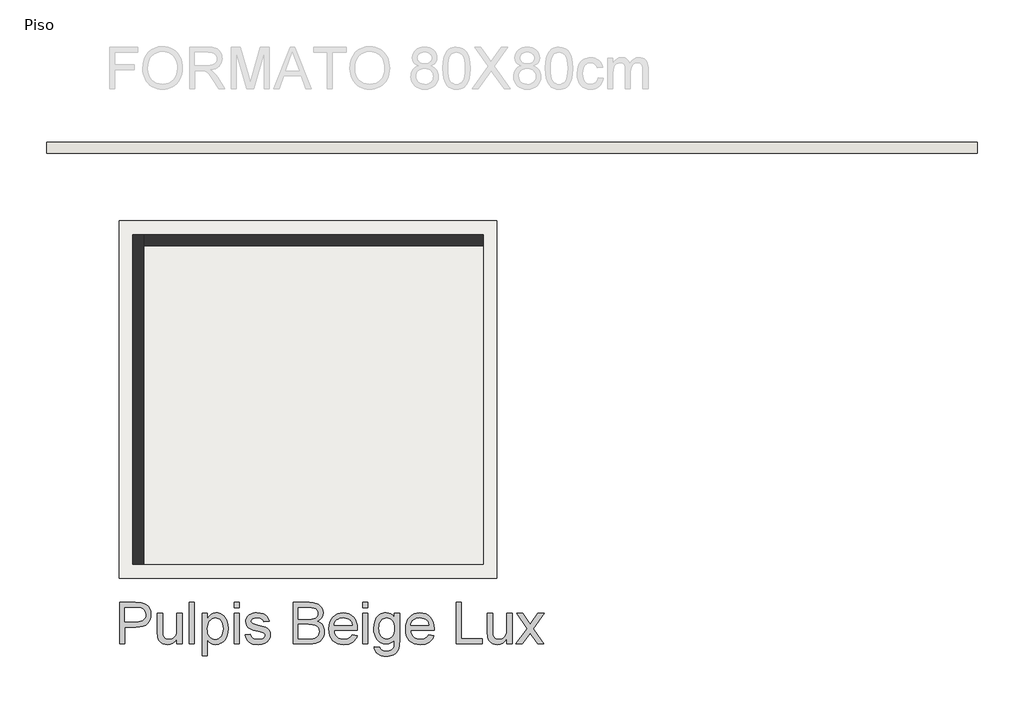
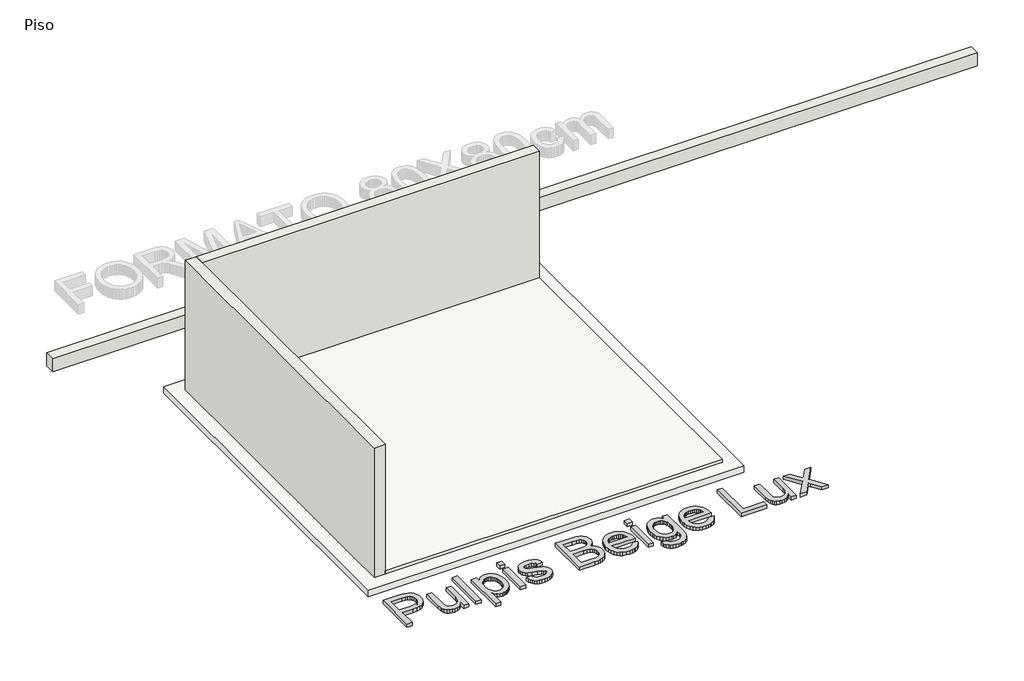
# One storey, part 1 of 2: 3 walls, 2 slabs, 1 proxy.
"""IFC4 building model written with IfcOpenShell, lengths in millimetres."""

from ifc_helpers import new_model, si_unit, frame, origin, origin_with_axes, place, context, project, spatial, polyline, outline, extrude, faceted_brep, element, save

model = new_model("IFC4")

# Units and contexts
model_context = context("Model", 3, world=origin())
ifc_project = project(units=[si_unit("LENGTHUNIT", "METRE", prefix="MILLI")], contexts=[model_context])

# Site, building, storey
site = spatial("IfcSite", under=ifc_project)
building = spatial("IfcBuilding", under=site)
storey = spatial("IfcBuildingStorey", under=building, Name="Piso", Elevation=0.0)

# Proxy
placement = place(None, origin())
element("IfcBuildingElementProxy", 1, Name="600mm Arial", ObjectType="600mm Arial", at=placement, inside=storey, context=model_context, shape_type="SweptSolid", body=[
    extrude(outline(polyline([(92748.4575984, -5348.9446893), (92748.4575984, -4746.2068284), (92971.8355459, -4746.2068284), (93023.85406, -4747.6415682), (93061.8930583, -4751.9457876), (93102.0473781, -4762.6695477), (93135.1015754, -4780.1255484), (93161.7178377, -4805.1047359), (93182.5583527, -4838.3980564), (93196.0228338, -4877.6694594), (93200.5109941, -4920.5828942), (93197.4805662, -4957.5826258), (93188.3892824, -4991.6209074), (93173.2371427, -5022.697739), (93152.0241471, -5050.8131204), (93122.9016887, -5074.1184448), (93084.0211603, -5090.7651051), (93035.3825621, -5100.7531013), (92976.9858938, -5104.0824334), (92823.7998311, -5104.0824334), (92823.7998311, -5348.9446893), (92748.4575984, -5348.9446893)]), holes=[polyline([(92823.7998311, -5028.7402007), (92981.4004778, -5028.7402007), (93017.6368543, -5027.0111554), (93048.2078481, -5021.8240192), (93073.1134592, -5013.1787923), (93092.3536875, -5001.0754747), (93106.7102824, -4985.8359631), (93116.964993, -4967.7821541), (93123.1178194, -4946.914048), (93125.1687615, -4923.2316445), (93120.3311133, -4889.386501), (93105.8181686, -4860.8388581), (93083.4325491, -4839.3545496), (93054.9768768, -4826.699409), (93025.9141992, -4822.836648), (92979.6346442, -4821.5490611), (92823.7998311, -4821.5490611), (92823.7998311, -5028.7402007)])]), origin_with_axes(), (0.0, 0.0, 1.0), 50.0),
    extrude(outline(polyline([(93577.2221572, -5348.9446893), (93577.2221572, -5272.8666927), (93549.9621013, -5310.2710946), (93518.2138851, -5336.9885245), (93481.9775086, -5353.0189824), (93441.2529718, -5358.3624684), (93404.5567427, -5354.6100721), (93370.3988995, -5343.352883), (93341.7408921, -5326.4303112), (93321.5441705, -5305.6817667), (93307.9509308, -5280.48185), (93299.1033688, -5250.2051618), (93294.6887849, -5180.16043), (93294.6887849, -4906.3090727), (93370.0310175, -4906.3090727), (93370.0310175, -5144.6966056), (93371.1714517, -5192.3741122), (93374.5927542, -5221.5103662), (93385.5740318, -5247.1333472), (93404.3911958, -5266.6126988), (93429.7934476, -5278.9183516), (93460.5299883, -5283.0202358), (93493.0323626, -5278.8263811), (93523.4378095, -5266.2448168), (93548.5089675, -5246.4343714), (93565.0084749, -5220.553873), (93574.1687366, -5185.1084428), (93577.2221572, -5136.6032017), (93577.2221572, -4906.3090727), (93652.5643898, -4906.3090727), (93652.5643898, -5348.9446893), (93577.2221572, -5348.9446893)])), origin_with_axes(), (0.0, 0.0, 1.0), 50.0),
    extrude(outline(polyline([(93756.1599596, -5348.9446893), (93756.1599596, -4746.2068284), (93831.5021922, -4746.2068284), (93831.5021922, -5348.9446893), (93756.1599596, -5348.9446893)])), origin_with_axes(), (0.0, 0.0, 1.0), 50.0),
    extrude(outline(polyline([(93944.5155412, -5518.4647127), (93944.5155412, -4906.3090727), (94019.8577738, -4906.3090727), (94019.8577738, -4980.1797774), (94044.432291, -4943.7410658), (94071.9498643, -4917.7134146), (94104.0291743, -4902.0968239), (94142.2889018, -4896.8912937), (94168.5648733, -4898.7123095), (94193.2405581, -4904.1753572), (94216.3159562, -4913.2804366), (94237.7910677, -4926.0275477), (94257.196843, -4942.0855968), (94274.0642324, -4961.12349), (94288.3932362, -4983.1412274), (94300.1838541, -5008.138809), (94315.9659917, -5063.6522021), (94321.2267042, -5124.2423667), (94315.28541, -5188.6768981), (94307.8587922, -5218.3419825), (94297.4615273, -5246.3056127), (94284.2361696, -5271.8366232), (94268.3252733, -5294.2038485), (94249.7288385, -5313.4072886), (94228.446865, -5329.4469436), (94205.5232182, -5342.0974857), (94182.0017631, -5351.1335872), (94157.8824998, -5356.5552481), (94133.1654283, -5358.3624684), (94098.5293384, -5353.5248202), (94067.6088567, -5339.0118755), (94041.1397472, -5317.1045027), (94019.8577738, -5290.0835701), (94019.8577738, -5518.4647127), (93944.5155412, -5518.4647127)]), holes=[polyline([(94019.8577738, -5131.1585482), (94021.8949203, -5167.4685011), (94028.00636, -5198.7016825), (94038.1920927, -5224.8580924), (94052.4521185, -5245.9377307), (94069.6184121, -5262.1613267), (94088.5229482, -5273.7496095), (94109.1657266, -5280.7025792), (94131.5467475, -5283.0202358), (94154.2496651, -5280.6198058), (94175.2695226, -5273.4185157), (94194.60632, -5261.4163656), (94212.2600572, -5244.6133555), (94226.9707385, -5222.770362), (94237.478368, -5195.6482619), (94243.7829457, -5163.2470552), (94245.8844716, -5125.5667419), (94243.8335295, -5089.5694886), (94237.6807031, -5058.3914895), (94227.4259925, -5032.0327446), (94213.0693976, -5010.4932538), (94195.8617173, -4993.754623), (94177.0537503, -4981.7984582), (94156.6454966, -4974.6247592), (94134.6369563, -4972.2335263), (94112.6973938, -4974.7765106), (94092.0546153, -4982.4054634), (94072.7086209, -4995.1203849), (94054.6594105, -5012.9212749), (94039.4336944, -5035.5690103), (94028.558183, -5062.8244676), (94022.0328761, -5094.6876469), (94019.8577738, -5131.1585482)])]), origin_with_axes(), (0.0, 0.0, 1.0), 50.0),
    extrude(outline(polyline([(94405.9867159, -4821.5490611), (94405.9867159, -4746.2068284), (94481.3289485, -4746.2068284), (94481.3289485, -4821.5490611), (94405.9867159, -4821.5490611)])), origin_with_axes(), (0.0, 0.0, 1.0), 50.0),
    extrude(outline(polyline([(94405.9867159, -5348.9446893), (94405.9867159, -4906.3090727), (94481.3289485, -4906.3090727), (94481.3289485, -5348.9446893), (94405.9867159, -5348.9446893)])), origin_with_axes(), (0.0, 0.0, 1.0), 50.0),
    extrude(outline(polyline([(94566.0889602, -5217.0957823), (94641.4311928, -5207.6780032), (94645.9837325, -5224.8580924), (94653.3137813, -5239.904466), (94663.4213391, -5252.817124), (94676.306406, -5263.5960665), (94692.0057701, -5272.0941405), (94710.5562197, -5278.1641935), (94756.2103753, -5283.0202358), (94801.3127079, -5278.5688637), (94818.842285, -5273.0046485), (94833.0241359, -5265.2147472), (94851.7861177, -5245.8641543), (94856.4766131, -5235.0300295), (94858.0401116, -5223.4233526), (94856.4674161, -5213.2514154), (94851.7493295, -5204.2199124), (94832.8769831, -5189.578209), (94804.6604341, -5180.0132772), (94755.3274585, -5168.0939005), (94686.5703136, -5148.2098787), (94641.8726512, -5131.2321246), (94613.1594615, -5112.7092661), (94592.3557347, -5088.1899312), (94579.7189881, -5059.2376181), (94575.5067393, -5027.4158256), (94578.8912536, -4998.2243892), (94589.0447967, -4971.2770331), (94605.0476635, -4947.6406149), (94625.980149, -4928.3819925), (94646.7838759, -4916.2602807), (94673.8783848, -4906.0883435), (94705.2035367, -4899.1905561), (94738.6991923, -4896.8912937), (94787.7378623, -4900.5885077), (94830.3753855, -4911.6801499), (94864.6619875, -4929.0809682), (94888.6478936, -4951.7057109), (94904.5403958, -4981.2282411), (94914.546786, -5019.3224217), (94839.2045534, -5028.7402007), (94829.6948039, -5005.0302061), (94810.8776398, -4987.1695353), (94782.5691203, -4975.9675285), (94744.5853043, -4972.2335263), (94701.3223816, -4975.8019816), (94672.4804332, -4986.5073477), (94656.2568372, -5001.9583915), (94650.8489719, -5019.7638801), (94653.0930521, -5031.3521629), (94659.8252926, -5041.689647), (94671.339999, -5050.923485), (94687.931477, -5058.3179132), (94752.825861, -5074.3575681), (94863.4111887, -5109.8213925), (94892.6210191, -5126.7807525), (94914.7675152, -5149.9941063), (94928.728637, -5179.5350306), (94933.3823442, -5215.4771015), (94927.9192966, -5252.633183), (94911.5301537, -5287.5819725), (94884.8403149, -5317.5827493), (94848.4751797, -5339.8947923), (94804.5500695, -5353.7455494), (94755.1803057, -5358.3624684), (94714.6305128, -5356.1367823), (94679.2126737, -5349.4597241), (94648.9267885, -5338.3312938), (94623.7728571, -5322.7514913), (94603.2266476, -5302.793893), (94586.7639283, -5278.5320755), (94574.3846992, -5249.9660385), (94566.0889602, -5217.0957823)])), origin_with_axes(), (0.0, 0.0, 1.0), 50.0),
    extrude(outline(polyline([(95263.0046119, -5348.9446893), (95263.0046119, -4746.2068284), (95493.0044353, -4746.2068284), (95556.2617443, -4750.6398065), (95605.6499022, -4763.9387406), (95625.7270621, -4773.9957147), (95643.5049595, -4786.4347246), (95658.9835944, -4801.2557705), (95672.1629669, -4818.4588523), (95690.2075788, -4856.1299686), (95696.2224494, -4895.5669185), (95691.164072, -4931.8584773), (95675.9889397, -4965.9795324), (95650.5866879, -4995.8331563), (95614.8469521, -5019.3224217), (95637.5866579, -5029.0161122), (95657.5396576, -5041.6160706), (95674.7059512, -5057.1222967), (95689.0855387, -5075.5347905), (95700.4484938, -5096.2925321), (95708.5648903, -5118.8345014), (95713.4347282, -5143.1606983), (95715.0580075, -5169.2711229), (95710.6250295, -5211.3016408), (95697.3260954, -5250.2787382), (95677.4788617, -5283.424906), (95653.4009852, -5307.9626351), (95623.9152432, -5325.7313354), (95587.8444136, -5338.5704171), (95544.0112739, -5346.3511213), (95491.2386017, -5348.9446893), (95263.0046119, -5348.9446893)]), holes=[polyline([(95338.3468445, -5273.6024567), (95492.8572825, -5273.6024567), (95548.7753457, -5270.6594008), (95574.7294205, -5264.1294954), (95596.0849703, -5254.2518638), (95613.4490005, -5240.1068011), (95627.4285163, -5220.7746022), (95636.6439603, -5197.1197899), (95639.7157749, -5170.0068869), (95636.1105314, -5138.5161881), (95625.2948007, -5111.4400733), (95606.4040603, -5090.2684644), (95578.5737873, -5076.4912837), (95539.1552316, -5068.9313087), (95485.4996426, -5066.411317), (95338.3468445, -5066.411317), (95338.3468445, -5273.6024567)]), polyline([(95338.3468445, -4991.0690844), (95475.9347107, -4991.0690844), (95524.0536757, -4989.4504037), (95556.2801384, -4984.5943613), (95584.404717, -4973.4291428), (95604.6198326, -4956.7089061), (95616.8151207, -4934.6911687), (95620.8802168, -4907.6334479), (95617.0910322, -4881.3666735), (95605.7234786, -4858.4844134), (95587.2925906, -4840.6237425), (95562.3134031, -4829.4217358), (95523.9800993, -4823.5172297), (95465.486862, -4821.5490611), (95338.3468445, -4821.5490611), (95338.3468445, -4991.0690844)])]), origin_with_axes(), (0.0, 0.0, 1.0), 50.0),
    extrude(outline(polyline([(96119.139591, -5217.0957823), (96193.0102957, -5226.5135613), (96181.6841288, -5256.1004708), (96166.3940333, -5282.1741072), (96147.1400094, -5304.7344706), (96123.922057, -5323.7815609), (96096.9792994, -5338.9107079), (96066.5508598, -5349.7172415), (96032.6367384, -5356.2011617), (95995.2369351, -5358.3624684), (95948.4883305, -5354.6330647), (95906.8348916, -5343.4448535), (95870.2766184, -5324.7978349), (95838.8135107, -5298.6920088), (95813.5124265, -5265.8539422), (95795.4402235, -5227.010202), (95784.5969017, -5182.1607883), (95780.9824611, -5131.305701), (95784.6336899, -5078.7261668), (95795.5873763, -5032.3822325), (95813.8435203, -4992.273898), (95839.4021219, -4958.4011633), (95870.7824561, -4931.4905953), (95906.5037978, -4912.2687611), (95946.5661471, -4900.7356605), (95990.9695039, -4896.8912937), (96033.9427195, -4900.7264635), (96072.8048538, -4912.2319729), (96107.5559067, -4931.4078219), (96138.1958784, -4958.2540105), (96163.2072555, -4992.0531688), (96181.0725249, -5032.0879269), (96191.7916866, -5078.3582848), (96195.3647404, -5130.8642426), (96194.9232821, -5151.1713287), (95856.3246937, -5151.1713287), (95860.6886939, -5181.2364848), (95869.3661104, -5207.5676386), (95882.3569434, -5230.1647901), (95899.6611927, -5249.0279394), (95920.3223653, -5263.8995691), (95943.3839679, -5274.5221617), (95968.8460004, -5280.8957173), (95996.7084631, -5283.0202358), (96036.8076005, -5279.0838985), (96070.5791677, -5267.2748864), (96098.0231645, -5246.8574357), (96119.139591, -5217.0957823)]), holes=[polyline([(95856.3246937, -5075.8290961), (96120.0225078, -5075.8290961), (96109.8321766, -5036.0242642), (96101.067388, -5020.3708853), (96089.8561842, -5007.5501978), (96069.3099748, -4992.099154), (96045.931074, -4981.0626942), (96019.7194819, -4974.4408182), (95990.6751983, -4972.2335263), (95964.1830962, -4973.9947613), (95939.8890889, -4979.2784665), (95917.7931766, -4988.0846417), (95897.8953591, -5000.4132871), (95881.1981151, -5015.6941855), (95868.7039228, -5033.3571198), (95860.4127824, -5053.40209), (95856.3246937, -5075.8290961)])]), origin_with_axes(), (0.0, 0.0, 1.0), 50.0),
    extrude(outline(polyline([(96270.7069731, -4821.5490611), (96270.7069731, -4746.2068284), (96346.0492057, -4746.2068284), (96346.0492057, -4821.5490611), (96270.7069731, -4821.5490611)])), origin_with_axes(), (0.0, 0.0, 1.0), 50.0),
    extrude(outline(polyline([(96270.7069731, -5348.9446893), (96270.7069731, -4906.3090727), (96346.0492057, -4906.3090727), (96346.0492057, -5348.9446893), (96270.7069731, -5348.9446893)])), origin_with_axes(), (0.0, 0.0, 1.0), 50.0),
    extrude(outline(polyline([(96440.2269964, -5386.6158056), (96515.5692291, -5396.0335847), (96523.8833621, -5419.5780324), (96539.9965935, -5435.7648402), (96571.6712333, -5448.3464044), (96613.1315342, -5452.5402592), (96657.35095, -5447.7945814), (96675.2116209, -5441.8624843), (96690.2396004, -5433.5575482), (96713.0482841, -5410.7488645), (96727.0277999, -5380.2882353), (96731.11129, -5347.8778316), (96732.1781478, -5292.4380149), (96707.1069898, -5317.159685), (96679.1295641, -5334.8180207), (96648.2458706, -5345.4130222), (96614.4559094, -5348.9446893), (96573.1473598, -5344.833608), (96536.7776261, -5332.5003642), (96505.3467081, -5311.9449577), (96478.8546059, -5283.1673886), (96457.8347484, -5248.6416634), (96442.8205645, -5210.8417884), (96433.8120541, -5169.7677636), (96430.8092174, -5125.4195891), (96436.1986886, -5064.5903012), (96452.3671023, -5008.6538438), (96464.3508583, -4983.4309345), (96478.7442413, -4961.2522487), (96495.5472515, -4942.1177864), (96514.7598887, -4926.0275477), (96536.0740518, -4913.2804366), (96559.1816396, -4904.1753572), (96584.0826521, -4898.7123095), (96610.7770894, -4896.8912937), (96646.0109875, -4901.011572), (96677.9891299, -4913.3724071), (96706.7115167, -4933.9737988), (96732.1781478, -4962.8157472), (96732.1781478, -4906.3090727), (96807.5203804, -4906.3090727), (96807.5203804, -5288.4648893), (96802.3700325, -5376.7013859), (96795.9320976, -5409.5210584), (96786.9189887, -5434.808347), (96775.1145752, -5455.2028051), (96760.3027263, -5473.343986), (96742.4834422, -5489.2318897), (96721.6567227, -5502.8665161), (96698.0341001, -5513.8110055), (96671.8271065, -5521.6284979), (96643.0357419, -5526.3189933), (96611.6600062, -5527.8824918), (96574.7476465, -5525.6797983), (96541.560092, -5519.071718), (96512.0973427, -5508.0582508), (96486.3593986, -5492.6393967), (96465.5694674, -5472.7967615), (96450.9507566, -5448.5119513), (96442.5032663, -5419.784966), (96440.2269964, -5386.6158056)]), holes=[polyline([(96506.15145, -5120.2692411), (96508.1610054, -5157.5218917), (96514.1896716, -5189.3758739), (96524.2374486, -5215.8311879), (96538.3043364, -5236.8878336), (96555.4062506, -5252.9504812), (96574.559107, -5264.4238009), (96595.7629055, -5271.3077928), (96619.0176461, -5273.6024567), (96642.0424605, -5271.3215884), (96663.1450914, -5264.4789832), (96682.3255389, -5253.0746414), (96699.583803, -5237.1085628), (96713.8438289, -5216.2588507), (96724.0295616, -5190.2036084), (96730.1410013, -5158.9428359), (96732.1781478, -5122.4765331), (96730.0812204, -5087.5323421), (96723.7904383, -5057.1590849), (96713.3058015, -5031.3567614), (96698.6273099, -5010.1253718), (96680.9965652, -4993.5476894), (96661.6551693, -4981.7064877), (96640.6031222, -4974.6017666), (96617.8404237, -4972.2335263), (96595.4594028, -4974.5649784), (96574.8166244, -4981.5593349), (96555.9120883, -4993.2165956), (96538.7457947, -5009.5367606), (96524.4857689, -5030.4462535), (96514.3000362, -5055.8714979), (96508.1885965, -5085.8124938), (96506.15145, -5120.2692411)])]), origin_with_axes(), (0.0, 0.0, 1.0), 50.0),
    extrude(outline(polyline([(97230.4375221, -5217.0957823), (97304.3082267, -5226.5135613), (97292.9820598, -5256.1004708), (97277.6919644, -5282.1741072), (97258.4379404, -5304.7344706), (97235.219988, -5323.7815609), (97208.2772304, -5338.9107079), (97177.8487909, -5349.7172415), (97143.9346694, -5356.2011617), (97106.5348661, -5358.3624684), (97059.7862616, -5354.6330647), (97018.1328227, -5343.4448535), (96981.5745494, -5324.7978349), (96950.1114418, -5298.6920088), (96924.8103575, -5265.8539422), (96906.7381545, -5227.010202), (96895.8948327, -5182.1607883), (96892.2803921, -5131.305701), (96895.9316209, -5078.7261668), (96906.8853073, -5032.3822325), (96925.1414513, -4992.273898), (96950.7000529, -4958.4011633), (96982.0803871, -4931.4905953), (97017.8017289, -4912.2687611), (97057.8640781, -4900.7356605), (97102.267435, -4896.8912937), (97145.2406505, -4900.7264635), (97184.1027848, -4912.2319729), (97218.8538378, -4931.4078219), (97249.4938094, -4958.2540105), (97274.5051866, -4992.0531688), (97292.370456, -5032.0879269), (97303.0896176, -5078.3582848), (97306.6626715, -5130.8642426), (97306.2212131, -5151.1713287), (96967.6226247, -5151.1713287), (96971.9866249, -5181.2364848), (96980.6640415, -5207.5676386), (96993.6548744, -5230.1647901), (97010.9591238, -5249.0279394), (97031.6202963, -5263.8995691), (97054.6818989, -5274.5221617), (97080.1439315, -5280.8957173), (97108.0063941, -5283.0202358), (97148.1055316, -5279.0838985), (97181.8770987, -5267.2748864), (97209.3210956, -5246.8574357), (97230.4375221, -5217.0957823)]), holes=[polyline([(96967.6226247, -5075.8290961), (97231.3204389, -5075.8290961), (97221.1301076, -5036.0242642), (97212.3653191, -5020.3708853), (97201.1541153, -5007.5501978), (97180.6079058, -4992.099154), (97157.229005, -4981.0626942), (97131.0174129, -4974.4408182), (97101.9731294, -4972.2335263), (97075.4810272, -4973.9947613), (97051.1870199, -4979.2784665), (97029.0911076, -4988.0846417), (97009.1932902, -5000.4132871), (96992.4960461, -5015.6941855), (96980.0018539, -5033.3571198), (96971.7107134, -5053.40209), (96967.6226247, -5075.8290961)])]), origin_with_axes(), (0.0, 0.0, 1.0), 50.0),
    extrude(outline(polyline([(97626.8671601, -5348.9446893), (97626.8671601, -4746.2068284), (97702.2093927, -4746.2068284), (97702.2093927, -5273.6024567), (98003.5783231, -5273.6024567), (98003.5783231, -5348.9446893), (97626.8671601, -5348.9446893)])), origin_with_axes(), (0.0, 0.0, 1.0), 50.0),
    extrude(outline(polyline([(98361.4539281, -5348.9446893), (98361.4539281, -5272.8666927), (98334.1938722, -5310.2710946), (98302.445656, -5336.9885245), (98266.2092795, -5353.0189824), (98225.4847426, -5358.3624684), (98188.7885136, -5354.6100721), (98154.6306704, -5343.352883), (98125.9726629, -5326.4303112), (98105.7759414, -5305.6817667), (98092.1827017, -5280.48185), (98083.3351397, -5250.2051618), (98078.9205558, -5180.16043), (98078.9205558, -4906.3090727), (98154.2627884, -4906.3090727), (98154.2627884, -5144.6966056), (98155.4032226, -5192.3741122), (98158.8245251, -5221.5103662), (98169.8058027, -5247.1333472), (98188.6229667, -5266.6126988), (98214.0252185, -5278.9183516), (98244.7617592, -5283.0202358), (98277.2641335, -5278.8263811), (98307.6695804, -5266.2448168), (98332.7407383, -5246.4343714), (98349.2402458, -5220.553873), (98358.4005075, -5185.1084428), (98361.4539281, -5136.6032017), (98361.4539281, -4906.3090727), (98436.7961607, -4906.3090727), (98436.7961607, -5348.9446893), (98361.4539281, -5348.9446893)])), origin_with_axes(), (0.0, 0.0, 1.0), 50.0),
    extrude(outline(polyline([(98493.3028351, -5348.9446893), (98654.2879962, -5126.4496587), (98502.7206142, -4906.3090727), (98593.3667378, -4906.3090727), (98666.5016785, -5012.2590874), (98700.6411276, -5062.2910387), (98730.21884, -5021.3825608), (98813.5073237, -4906.3090727), (98904.1534473, -4906.3090727), (98744.9341198, -5126.4496587), (98898.2673354, -5348.9446893), (98807.6212118, -5348.9446893), (98715.3564074, -5215.1827959), (98698.4338356, -5190.7554314), (98583.9489587, -5348.9446893), (98493.3028351, -5348.9446893)])), origin_with_axes(), (0.0, 0.0, 1.0), 50.0),
])

# Slabs
element("IfcSlab", 2, ObjectType="5cm - Porcelanato Pulpis Beige Lux  - Polido 80x80", at=placement, inside=storey, context=model_context, shape_type="SweptSolid", body=[
    extrude(outline(polyline([(98018.1478253, 427.1889419), (98018.1478253, -4193.4110581), (93097.5478253, -4193.4110581), (93097.5478253, 427.1889419), (98018.1478253, 427.1889419)])), origin_with_axes(), (0.0, 0.0, 1.0), 50.0),
])
element("IfcSlab", 3, ObjectType="CO02 - Concreto Estrutural Simples", at=placement, inside=storey, context=model_context, shape_type="SweptSolid", body=[
    extrude(outline(polyline([(98218.1478253, 785.9889419), (98218.1478253, -4393.4110581), (92738.7478253, -4393.4110581), (92738.7478253, 785.9889419), (98218.1478253, 785.9889419)])), frame((0.0, 0.0, -100.0), z_axis=(0.0, 0.0, 1.0), x_axis=(1.0, 0.0, 0.0)), (0.0, 0.0, 1.0), 100.0),
])

# Walls
element("IfcWall", 4, ObjectType="CO01 - Bloco de Concreto 14cm / Pintura Branca Simples", at=placement, inside=storey, context=model_context, shape_type="SweptSolid", body=[
    extrude(outline(polyline([(105186.699165, 1765.7486968), (91686.699165, 1765.7486968), (91686.699165, 1924.5486968), (105186.699165, 1924.5486968), (105186.699165, 1765.7486968)])), origin_with_axes(), (0.0, 0.0, 1.0), 200.0),
])
element("IfcWall", 5, ObjectType="CO01 - Bloco de Concreto 14cm / Pintura Branca Simples", at=placement, inside=storey, context=model_context, shape_type="Brep", body=[
    faceted_brep([(93097.5478253, -4193.4110581, 0.0), (93097.5478253, 427.1889419, 0.0), (93097.5478253, 585.9889419, 0.0), (93097.5478253, 585.9889419, 2000.0), (93097.5478253, 427.1889419, 2000.0), (93097.5478253, -4193.4110581, 2000.0), (92938.7478253, -4193.4110581, 0.0), (92938.7478253, -4193.4110581, 2000.0), (92938.7478253, 585.9889419, 2000.0), (92938.7478253, 585.9889419, 0.0)], [[[0, 1, 2, 3, 4, 5]], [[6, 7, 8, 9]], [[2, 1, 0, 6, 9]], [[5, 4, 3, 8, 7]], [[0, 5, 7, 6]], [[3, 2, 9, 8]]]),
])
element("IfcWall", 6, ObjectType="CO01 - Bloco de Concreto 14cm / Pintura Branca Simples", at=placement, inside=storey, context=model_context, shape_type="SweptSolid", body=[
    extrude(outline(polyline([(98018.1478253, 427.1889419), (93097.5478253, 427.1889419), (93097.5478253, 585.9889419), (98018.1478253, 585.9889419), (98018.1478253, 427.1889419)])), origin_with_axes(), (0.0, 0.0, 1.0), 2000.0),
])

save(model, "model.ifc")
